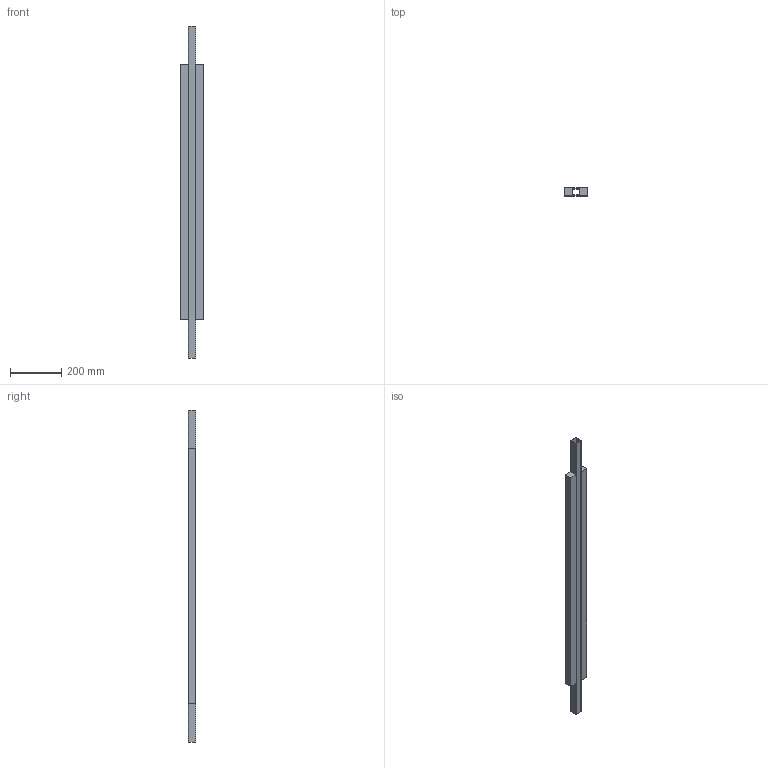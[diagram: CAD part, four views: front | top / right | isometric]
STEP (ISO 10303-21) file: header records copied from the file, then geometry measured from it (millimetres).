
FILE_DESCRIPTION (( 'STEP AP214' ), '1' );
FILE_NAME ('0010795_0_00.STEP', '2018-07-12T10:15:17', ( '' ), ( '' ), 'SwSTEP 2.0', 'SolidWorks 2018', '' );
FILE_SCHEMA (( 'AUTOMOTIVE_DESIGN' ));
Length unit declared in the file: millimetre
Products named in the file (3): 0010795_0_00; 0006644_0_02_2 lame L=1000; 0006644_0_01_2 lame L=1000
Assembly tree (2 placements, depth 2):
  0010795_0_00
    0006644_0_01_2 lame L=1000
    0006644_0_02_2 lame L=1000
Bounding box: 90 x 30 x 1300 mm (x, y, z)
Volume: 2218882.3 mm3; surface area: 537202 mm2
Topology: 3 solids, 3 shells, 30 faces, 72 edges, 48 vertices
Faces by surface type: plane 22, cylinder 8
Entity records: 1149 total; most frequent: DIRECTION 158, CARTESIAN_POINT 155, ORIENTED_EDGE 144, EDGE_CURVE 72, VECTOR 56, LINE 56, AXIS2_PLACEMENT_3D 51, VERTEX_POINT 48
